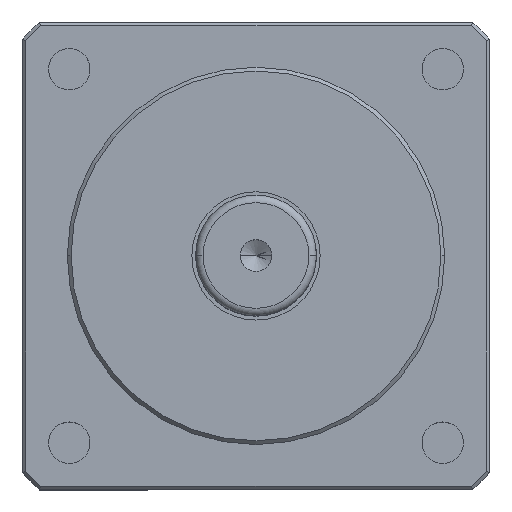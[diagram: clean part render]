
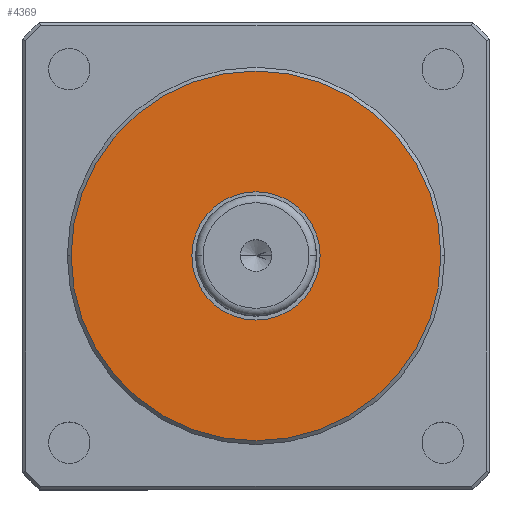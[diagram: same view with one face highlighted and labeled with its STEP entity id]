
A CAD part, top view. The second image highlights one B-rep face of the part: STEP entity #4369.
In plain terms, the highlighted planar face has unit normal (0, 0, 1).
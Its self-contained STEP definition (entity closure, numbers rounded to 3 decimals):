
#287 = FACE_OUTER_BOUND ( 'NONE', #4972, .T. ) ;
#290 = FACE_BOUND ( 'NONE', #4960, .T. ) ;
#764 = AXIS2_PLACEMENT_3D ( 'NONE', #884, #889, #890 ) ;
#883 = PLANE ( 'NONE',  #764 ) ;
#884 = CARTESIAN_POINT ( 'NONE',  ( 0., 0., 22.5 ) ) ;
#889 = DIRECTION ( 'NONE',  ( 0., 0., 1. ) ) ;
#890 = DIRECTION ( 'NONE',  ( 1., 0., 0. ) ) ;
#1740 = CIRCLE ( 'NONE', #2233, 24.5 ) ;
#1743 = CIRCLE ( 'NONE', #2234, 8.5 ) ;
#2233 = AXIS2_PLACEMENT_3D ( 'NONE', #2421, #2422, #2423 ) ;
#2234 = AXIS2_PLACEMENT_3D ( 'NONE', #2425, #2426, #2427 ) ;
#2332 = AXIS2_PLACEMENT_3D ( 'NONE', #3412, #3413, #3414 ) ;
#2421 = CARTESIAN_POINT ( 'NONE',  ( 0., 0., 22.5 ) ) ;
#2422 = DIRECTION ( 'NONE',  ( 0., 0., 1. ) ) ;
#2423 = DIRECTION ( 'NONE',  ( 1., 0., 0. ) ) ;
#2425 = CARTESIAN_POINT ( 'NONE',  ( 0., 0., 22.5 ) ) ;
#2426 = DIRECTION ( 'NONE',  ( 0., 0., 1. ) ) ;
#2427 = DIRECTION ( 'NONE',  ( 1., 0., 0. ) ) ;
#2872 = CIRCLE ( 'NONE', #2332, 24.5 ) ;
#3412 = CARTESIAN_POINT ( 'NONE',  ( 0., 0., 22.5 ) ) ;
#3413 = DIRECTION ( 'NONE',  ( 0., 0., 1. ) ) ;
#3414 = DIRECTION ( 'NONE',  ( 1., 0., 0. ) ) ;
#3490 = EDGE_CURVE ( 'NONE', #5352, #5366, #4178, .T. ) ;
#3527 = CARTESIAN_POINT ( 'NONE',  ( 8.5, 0., 22.5 ) ) ;
#3538 = CARTESIAN_POINT ( 'NONE',  ( -24.5, 0., 22.5 ) ) ;
#3539 = CARTESIAN_POINT ( 'NONE',  ( 24.5, 0., 22.5 ) ) ;
#3543 = CARTESIAN_POINT ( 'NONE',  ( -8.5, 0., 22.5 ) ) ;
#4178 = CIRCLE ( 'NONE', #4741, 8.5 ) ;
#4261 = CARTESIAN_POINT ( 'NONE',  ( 0., 0., 22.5 ) ) ;
#4262 = DIRECTION ( 'NONE',  ( 0., 0., 1. ) ) ;
#4263 = DIRECTION ( 'NONE',  ( 1., 0., 0. ) ) ;
#4369 = ADVANCED_FACE ( 'NONE', ( #287, #290 ), #883, .T. ) ;
#4642 = EDGE_CURVE ( 'NONE', #5361, #5362, #1740, .T. ) ;
#4643 = EDGE_CURVE ( 'NONE', #5366, #5352, #1743, .T. ) ;
#4741 = AXIS2_PLACEMENT_3D ( 'NONE', #4261, #4262, #4263 ) ;
#4960 = EDGE_LOOP ( 'NONE', ( #5180, #5181 ) ) ;
#4972 = EDGE_LOOP ( 'NONE', ( #5178, #5179 ) ) ;
#5162 = EDGE_CURVE ( 'NONE', #5362, #5361, #2872, .T. ) ;
#5178 = ORIENTED_EDGE ( 'NONE', *, *, #4642, .T. ) ;
#5179 = ORIENTED_EDGE ( 'NONE', *, *, #5162, .T. ) ;
#5180 = ORIENTED_EDGE ( 'NONE', *, *, #4643, .F. ) ;
#5181 = ORIENTED_EDGE ( 'NONE', *, *, #3490, .F. ) ;
#5352 = VERTEX_POINT ( 'NONE', #3527 ) ;
#5361 = VERTEX_POINT ( 'NONE', #3538 ) ;
#5362 = VERTEX_POINT ( 'NONE', #3539 ) ;
#5366 = VERTEX_POINT ( 'NONE', #3543 ) ;
